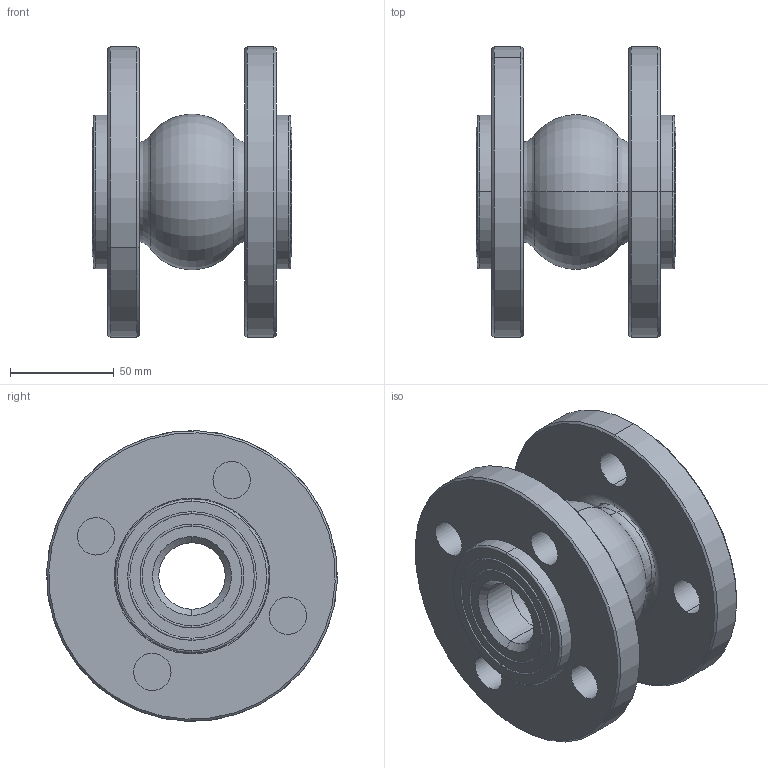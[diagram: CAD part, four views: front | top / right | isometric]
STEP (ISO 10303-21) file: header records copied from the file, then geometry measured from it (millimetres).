
FILE_DESCRIPTION (( 'STEP AP203' ), '1' );
FILE_NAME ('DN32 PN16.STEP', '2026-07-16T06:15:43', ( 'Windows 蚚誧' ), ( '' ), 'SwSTEP 2.0', 'SolidWorks 2018', '' );
FILE_SCHEMA (( 'CONFIG_CONTROL_DESIGN' ));
Length unit declared in the file: millimetre
Products named in the file (3): DN32等⑩邧楊擘; DN32; DN32 PN16
Assembly tree (3 placements, depth 2):
  DN32 PN16
    DN32
    DN32等⑩邧楊擘  x2
Bounding box: 96 x 140 x 140 mm (x, y, z)
Volume: 520280.4 mm3; surface area: 123050.3 mm2
Topology: 3 solids, 3 shells, 124 faces, 264 edges, 156 vertices
Faces by surface type: cylinder 44, torus 44, cone 20, plane 16
Entity records: 2895 total; most frequent: DIRECTION 550, CARTESIAN_POINT 410, ORIENTED_EDGE 392, AXIS2_PLACEMENT_3D 254, EDGE_CURVE 196, CIRCLE 154, VERTEX_POINT 114, EDGE_LOOP 114
